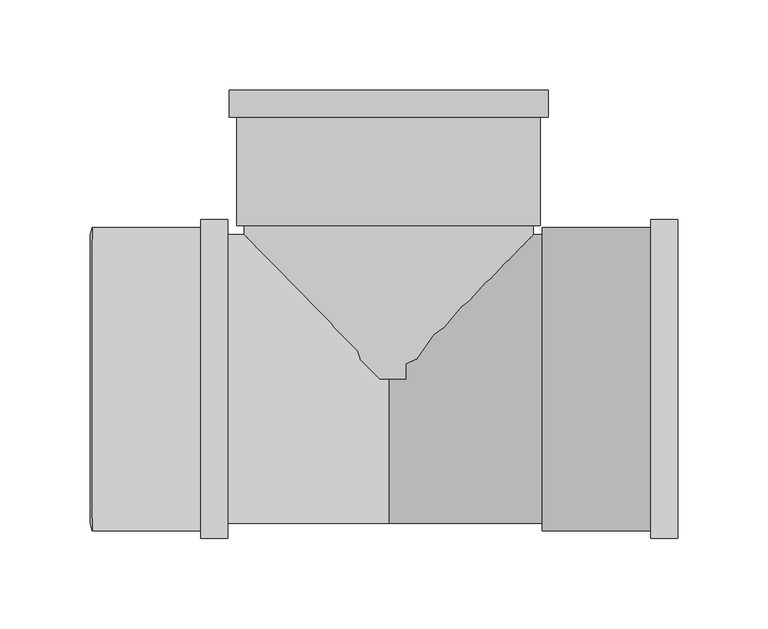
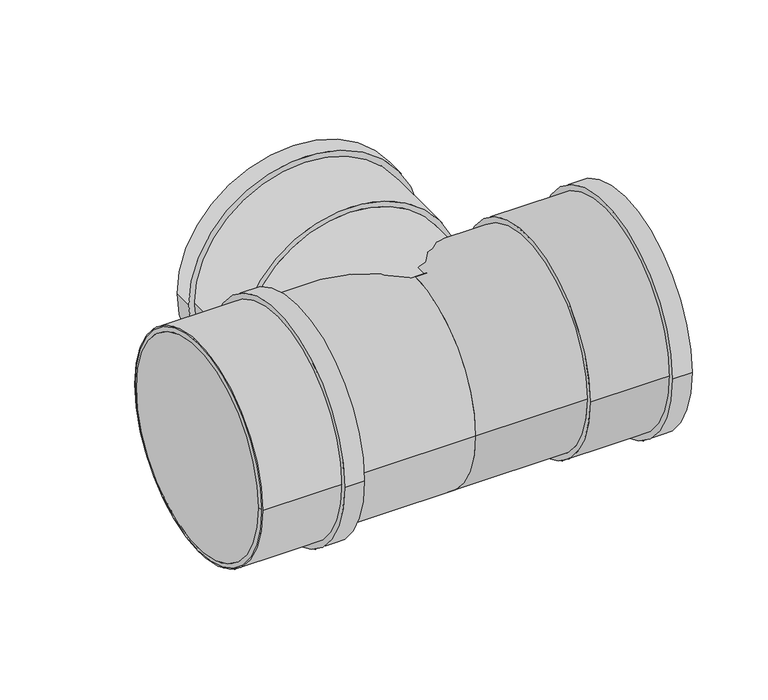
"""IFC4 building model written with IfcOpenShell, lengths in millimetres: pipe fitting geometry, Superdrain HTEA Branch : Superdrain HTEA Branch."""

from ifc_helpers import new_model, si_unit, point, frame, origin, origin_2d, place, context, project, spatial, polyline, circle_curve, trimmed, segment, composite_curve, outline, extrude, source, transform, mapped, element, save
from ifc_brep_helpers import plane_surface, revolved_surface, advanced_brep


def pipe_fitting_282a1c25(model_context):
    return source(origin(), model_context, "Body", "SolidModel", [
        extrude(outline(composite_curve([segment(trimmed(circle_curve(origin_2d(), 84.0), [point((84.0, 0.0))], [point((-84.0, 0.0))], False, "CARTESIAN"), True, "CONTINUOUS"), segment(trimmed(circle_curve(origin_2d(), 84.0), [point((-84.0, 0.0))], [point((84.0, 0.0))], False, "CARTESIAN"), True, "CONTINUOUS")], self_intersect=False), holes=[composite_curve([segment(trimmed(circle_curve(origin_2d(), 80.0), [point((80.0, 0.0))], [point((-80.0, 0.0))], True, "CARTESIAN"), True, "CONTINUOUS"), segment(trimmed(circle_curve(origin_2d(), 80.0), [point((-80.0, 0.0))], [point((80.0, 0.0))], True, "CARTESIAN"), True, "CONTINUOUS")], self_intersect=False)]), frame((-164.1, 0.0, 0.0), z_axis=(1.0, 0.0, 0.0), x_axis=(0.0, 1.0, 0.0)), (0.0, 0.0, 1.0), 75.0),
        extrude(outline(composite_curve([segment(trimmed(circle_curve(origin_2d(), 88.2), [point((88.2, 0.0))], [point((-88.2, 0.0))], False, "CARTESIAN"), True, "CONTINUOUS"), segment(trimmed(circle_curve(origin_2d(), 88.2), [point((-88.2, 0.0))], [point((88.2, 0.0))], False, "CARTESIAN"), True, "CONTINUOUS")], self_intersect=False), holes=[composite_curve([segment(trimmed(circle_curve(origin_2d(), 80.0), [point((80.0, 0.0))], [point((-80.0, 0.0))], True, "CARTESIAN"), True, "CONTINUOUS"), segment(trimmed(circle_curve(origin_2d(), 80.0), [point((-80.0, 0.0))], [point((80.0, 0.0))], True, "CARTESIAN"), True, "CONTINUOUS")], self_intersect=False)]), frame((-104.1, 0.0, 0.0), z_axis=(1.0, 0.0, 0.0), x_axis=(0.0, 1.0, 0.0)), (0.0, 0.0, 1.0), 15.0),
        advanced_brep(
        [(-165.1, 80.0, 0.0), (-165.1, -80.0, 0.0), (-164.1, 84.0, 0.0), (-164.1, -84.0, 0.0)],
        [
            (0, 1, circle_curve(frame((-165.1, 0.0, 0.0), z_axis=(-1.0, 0.0, 0.0), x_axis=(0.0, 1.0000000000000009, 0.0)), 80.0)),
            (1, 0, circle_curve(frame((-165.1, 0.0, 0.0), z_axis=(-1.0, 0.0, 0.0), x_axis=(0.0, -1.0000000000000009, 0.0)), 80.0)),
            (2, 3, circle_curve(frame((-164.1, 0.0, 0.0), z_axis=(1.0, 0.0, 0.0), x_axis=(0.0, -1.0000000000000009, 0.0)), 84.0)),
            (3, 2, circle_curve(frame((-164.1, 0.0, 0.0), z_axis=(1.0, 0.0, 0.0), x_axis=(0.0, 1.0000000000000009, 0.0)), 84.0)),
            (3, 1),
            (0, 2),
        ],
        [
            plane_surface(frame((-165.1, 0.0, 0.0), z_axis=(-1.0, 0.0, 0.0), x_axis=(0.0, 0.0, -1.0))),
            plane_surface(frame((-164.1, 0.0, 0.0), z_axis=(1.0, 0.0, 0.0), x_axis=(0.0, 0.0, -1.0))),
            revolved_surface(polyline([(-165.1, 79.99999999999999, 0.0), (-164.1, 84.0, 0.0)]), (-185.1, 0.0, 0.0), (1.0000000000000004, 0.0, 0.0)),
            revolved_surface(polyline([(-165.1, -79.99999999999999, 0.0), (-164.1, -84.0, 0.0)]), (-185.1, 0.0, 0.0), (1.0000000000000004, 0.0, 0.0)),
        ],
        [
            (0, [[1, 2]]),
            (1, [[3, 4]]),
            (2, [[-4, 5, -1, 6]]),
            (3, [[-3, -6, -2, -5]]),
        ],
    ),
        extrude(outline(composite_curve([segment(trimmed(circle_curve(origin_2d(), 84.0), [point((-84.0, 0.0))], [point((84.0, 0.0))], False, "CARTESIAN"), True, "CONTINUOUS"), segment(trimmed(circle_curve(origin_2d(), 84.0), [point((84.0, 0.0))], [point((-84.0, 0.0))], False, "CARTESIAN"), True, "CONTINUOUS")], self_intersect=False), holes=[composite_curve([segment(trimmed(circle_curve(origin_2d(), 80.0), [point((80.0, 0.0))], [point((-80.0, 0.0))], True, "CARTESIAN"), True, "CONTINUOUS"), segment(trimmed(circle_curve(origin_2d(), 80.0), [point((-80.0, 0.0))], [point((80.0, 0.0))], True, "CARTESIAN"), True, "CONTINUOUS")], self_intersect=False)]), frame((84.9, 0.0, 0.0), z_axis=(1.0, 0.0, 0.0), x_axis=(0.0, 1.0, 0.0)), (0.0, 0.0, 1.0), 75.0),
        extrude(outline(composite_curve([segment(trimmed(circle_curve(origin_2d(), 88.2), [point((88.2, 0.0))], [point((-88.2, 0.0))], False, "CARTESIAN"), True, "CONTINUOUS"), segment(trimmed(circle_curve(origin_2d(), 88.2), [point((-88.2, 0.0))], [point((88.2, 0.0))], False, "CARTESIAN"), True, "CONTINUOUS")], self_intersect=False), holes=[composite_curve([segment(trimmed(circle_curve(origin_2d(), 80.0), [point((80.0, 0.0))], [point((-80.0, 0.0))], True, "CARTESIAN"), True, "CONTINUOUS"), segment(trimmed(circle_curve(origin_2d(), 80.0), [point((-80.0, 0.0))], [point((80.0, 0.0))], True, "CARTESIAN"), True, "CONTINUOUS")], self_intersect=False)]), frame((144.9, 0.0, 0.0), z_axis=(1.0, 0.0, 0.0), x_axis=(0.0, 1.0, 0.0)), (0.0, 0.0, 1.0), 15.0),
        extrude(outline(composite_curve([segment(trimmed(circle_curve(origin_2d(), 80.0), [point((0.0, 80.0))], [point((0.0, -80.0))], False, "CARTESIAN"), True, "CONTINUOUS"), segment(trimmed(circle_curve(origin_2d(), 80.0), [point((0.0, -80.0))], [point((0.0, 80.0))], False, "CARTESIAN"), True, "CONTINUOUS")], self_intersect=False)), frame((0.0, 0.0, 0.0), z_axis=(0.0, 1.0, 0.0), x_axis=(0.0, 0.0, 1.0)), (0.0, 0.0, 1.0), 84.9),
        extrude(outline(composite_curve([segment(trimmed(circle_curve(origin_2d(), 80.0), [point((80.0, 0.0))], [point((-80.0, 0.0))], False, "CARTESIAN"), True, "CONTINUOUS"), segment(trimmed(circle_curve(origin_2d(), 80.0), [point((-80.0, 0.0))], [point((80.0, 0.0))], False, "CARTESIAN"), True, "CONTINUOUS")], self_intersect=False)), frame((-164.1, 0.0, 0.0), z_axis=(1.0, 0.0, 0.0), x_axis=(0.0, 1.0, 0.0)), (0.0, 0.0, 1.0), 164.1),
        extrude(outline(composite_curve([segment(trimmed(circle_curve(origin_2d(), 80.0), [point((-80.0, 0.0))], [point((80.0, 0.0))], False, "CARTESIAN"), True, "CONTINUOUS"), segment(trimmed(circle_curve(origin_2d(), 80.0), [point((80.0, 0.0))], [point((-80.0, 0.0))], False, "CARTESIAN"), True, "CONTINUOUS")], self_intersect=False)), frame((0.0, 0.0, 0.0), z_axis=(1.0, 0.0, 0.0), x_axis=(0.0, 1.0, 0.0)), (0.0, 0.0, 1.0), 84.9),
        extrude(outline(composite_curve([segment(trimmed(circle_curve(origin_2d(), 88.2), [point((0.0, 88.2))], [point((0.0, -88.2))], False, "CARTESIAN"), True, "CONTINUOUS"), segment(trimmed(circle_curve(origin_2d(), 88.2), [point((0.0, -88.2))], [point((0.0, 88.2))], False, "CARTESIAN"), True, "CONTINUOUS")], self_intersect=False), holes=[composite_curve([segment(trimmed(circle_curve(origin_2d(), 80.0), [point((0.0, 80.0))], [point((0.0, -80.0))], True, "CARTESIAN"), True, "CONTINUOUS"), segment(trimmed(circle_curve(origin_2d(), 80.0), [point((0.0, -80.0))], [point((0.0, 80.0))], True, "CARTESIAN"), True, "CONTINUOUS")], self_intersect=False)]), frame((0.0, 144.9, 0.0), z_axis=(0.0, 1.0, 0.0), x_axis=(0.0, 0.0, 1.0)), (0.0, 0.0, 1.0), 15.0),
        extrude(outline(composite_curve([segment(trimmed(circle_curve(origin_2d(), 84.0), [point((0.0, 84.0))], [point((0.0, -84.0))], False, "CARTESIAN"), True, "CONTINUOUS"), segment(trimmed(circle_curve(origin_2d(), 84.0), [point((0.0, -84.0))], [point((0.0, 84.0))], False, "CARTESIAN"), True, "CONTINUOUS")], self_intersect=False), holes=[composite_curve([segment(trimmed(circle_curve(origin_2d(), 80.0), [point((0.0, 80.0))], [point((0.0, -80.0))], True, "CARTESIAN"), True, "CONTINUOUS"), segment(trimmed(circle_curve(origin_2d(), 80.0), [point((0.0, -80.0))], [point((0.0, 80.0))], True, "CARTESIAN"), True, "CONTINUOUS")], self_intersect=False)]), frame((0.0, 84.9, 0.0), z_axis=(0.0, 1.0, 0.0), x_axis=(0.0, 0.0, 1.0)), (0.0, 0.0, 1.0), 75.0),
    ])


if __name__ == "__main__":
    model = new_model("IFC4")
    model_context = context("Model", 3, world=origin())
    ifc_project = project(units=[si_unit("LENGTHUNIT", "METRE", prefix="MILLI")], contexts=[model_context])
    site = spatial("IfcSite", under=ifc_project)
    building = spatial("IfcBuilding", under=site)
    placement = place(None, origin())
    pipe_fitting_shape = pipe_fitting_282a1c25(model_context)
    element("IfcPipeFitting", 1, ObjectType="Superdrain HTEA Branch : Superdrain HTEA Branch", at=placement, inside=building, context=model_context, shape_type="MappedRepresentation", body=[
        mapped(pipe_fitting_shape, transform((0.0, 0.0, 0.0), x_axis=(1.0, 0.0, 0.0), y_axis=(0.0, 1.0, 0.0), z_axis=(0.0, 0.0, 1.0))),
    ])
    save(model, "model.ifc")
